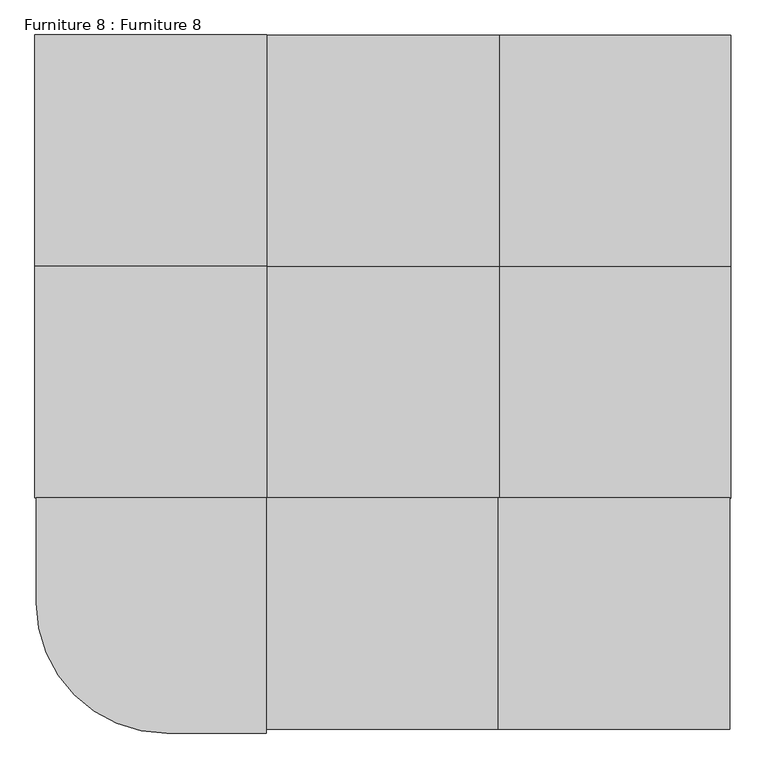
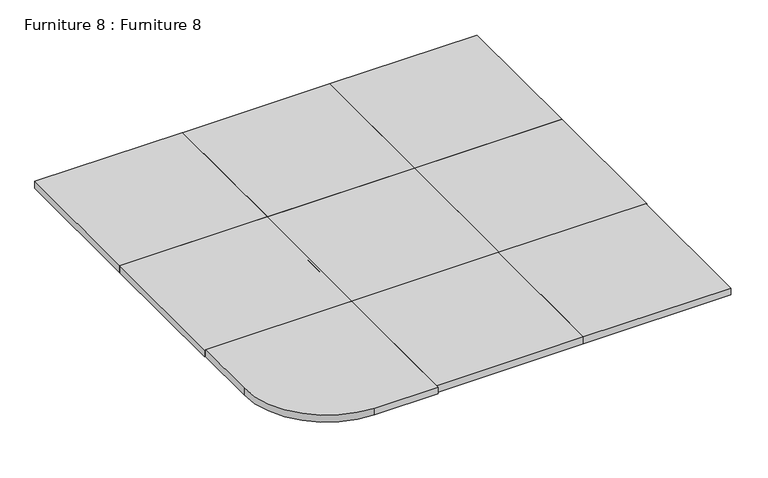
"""IFC4 building model written with IfcOpenShell, lengths in millimetres: furniture geometry, Furniture 8 : Furniture 8."""

from ifc_helpers import new_model, si_unit, point, frame, frame_2d, origin, place, context, project, spatial, polyline, circle_curve, trimmed, segment, composite_curve, outline, extrude, source, transform, mapped, element, save


def furniture_8_furniture_8_063f9346(model_context):
    return source(origin(), model_context, "Body", "SweptSolid", [
        extrude(outline(polyline([(-10034.084072, 9795.0), (-10034.084072, 9191.4935292), (-10638.3339919, 9191.4935292), (-10638.3339919, 9795.0), (-10034.084072, 9795.0)])), frame((0.0, 0.0, 2510.0), z_axis=(0.0, 0.0, 1.0), x_axis=(1.0, 0.0, 0.0)), (0.0, 0.0, 1.0), 30.0),
        extrude(outline(composite_curve([segment(polyline([(-11242.5839119, 9794.4805875), (-11242.5839119, 9181.222034), (-11502.5839119, 9181.222034)]), True, "CONTINUOUS"), segment(trimmed(circle_curve(frame_2d((-11502.5839119, 9521.222034)), 340.0), [point((-11502.5839119, 9181.222034))], [point((-11842.5839119, 9521.222034))], False, "CARTESIAN"), True, "CONTINUOUS"), segment(polyline([(-11842.5839119, 9521.222034), (-11842.5839119, 9794.4805875), (-11242.5839119, 9794.4805875)]), True, "CONTINUOUS")], self_intersect=False)), frame((0.0, 0.0, 2510.0), z_axis=(0.0, 0.0, 1.0), x_axis=(1.0, 0.0, 0.0)), (0.0, 0.0, 1.0), 30.0),
        extrude(outline(polyline([(-10638.3339919, 9795.0), (-10638.3339919, 9191.4935292), (-11242.5839119, 9191.4935292), (-11242.5839119, 9795.0), (-10638.3339919, 9795.0)])), frame((0.0, 0.0, 2510.0), z_axis=(0.0, 0.0, 1.0), x_axis=(1.0, 0.0, 0.0)), (0.0, 0.0, 1.0), 30.0),
        extrude(outline(polyline([(-11241.8338318, 10397.9870583), (-11241.8338318, 9794.4805875), (-11846.0837517, 9794.4805875), (-11846.0837517, 10397.9870583), (-11241.8338318, 10397.9870583)])), frame((0.0, 0.0, 2510.0), z_axis=(0.0, 0.0, 1.0), x_axis=(1.0, 0.0, 0.0)), (0.0, 0.0, 1.0), 30.0),
        extrude(outline(polyline([(-10636.0837517, 10396.4935292), (-10636.0837517, 9792.9870583), (-11249.7905603, 9792.9870583), (-11249.7905603, 10396.4935292), (-10636.0837517, 10396.4935292)])), frame((0.0, 0.0, 2510.0), z_axis=(0.0, 0.0, 1.0), x_axis=(1.0, 0.0, 0.0)), (0.0, 0.0, 1.0), 30.0),
        extrude(outline(polyline([(-10031.8338318, 10396.4935292), (-10031.8338318, 9792.9870583), (-10636.0837517, 9792.9870583), (-10636.0837517, 10396.4935292), (-10031.8338318, 10396.4935292)])), frame((0.0, 0.0, 2510.0), z_axis=(0.0, 0.0, 1.0), x_axis=(1.0, 0.0, 0.0)), (0.0, 0.0, 1.0), 30.0),
        extrude(outline(polyline([(-11241.8338318, 11001.4935292), (-11241.8338318, 10397.9870583), (-11846.0837517, 10397.9870583), (-11846.0837517, 11001.4935292), (-11241.8338318, 11001.4935292)])), frame((0.0, 0.0, 2510.0), z_axis=(0.0, 0.0, 1.0), x_axis=(1.0, 0.0, 0.0)), (0.0, 0.0, 1.0), 30.0),
        extrude(outline(polyline([(-10636.0837517, 11000.0), (-10636.0837517, 10396.4935292), (-11240.3336716, 10396.4935292), (-11240.3336716, 11000.0), (-10636.0837517, 11000.0)])), frame((0.0, 0.0, 2510.0), z_axis=(0.0, 0.0, 1.0), x_axis=(1.0, 0.0, 0.0)), (0.0, 0.0, 1.0), 30.0),
        extrude(outline(polyline([(-10031.8338318, 11000.0), (-10031.8338318, 10396.4935292), (-10636.0837517, 10396.4935292), (-10636.0837517, 11000.0), (-10031.8338318, 11000.0)])), frame((0.0, 0.0, 2510.0), z_axis=(0.0, 0.0, 1.0), x_axis=(1.0, 0.0, 0.0)), (0.0, 0.0, 1.0), 30.0),
    ])


if __name__ == "__main__":
    model = new_model("IFC4")
    model_context = context("Model", 3, world=origin())
    ifc_project = project(units=[si_unit("LENGTHUNIT", "METRE", prefix="MILLI")], contexts=[model_context])
    site = spatial("IfcSite", under=ifc_project)
    building = spatial("IfcBuilding", under=site)
    placement = place(None, origin())
    furniture_8_furniture_8_shape = furniture_8_furniture_8_063f9346(model_context)
    element("IfcFurniture", 1, ObjectType="Furniture 8 : Furniture 8", at=placement, inside=building, context=model_context, shape_type="MappedRepresentation", body=[
        mapped(furniture_8_furniture_8_shape, transform((0.0, 0.0, 0.0), x_axis=(1.0, 0.0, 0.0), y_axis=(0.0, 1.0, 0.0), z_axis=(0.0, 0.0, 1.0))),
    ])
    save(model, "model.ifc")
